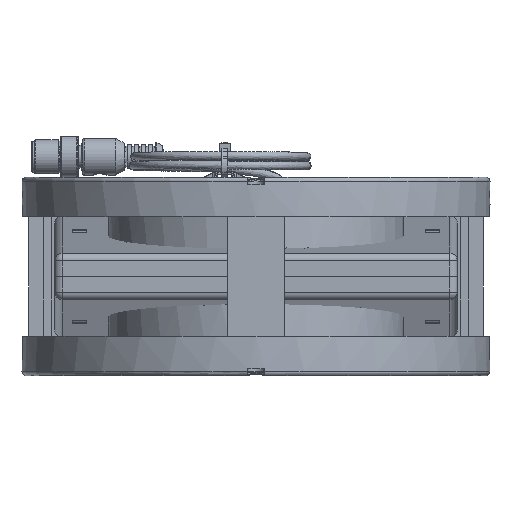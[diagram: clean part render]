
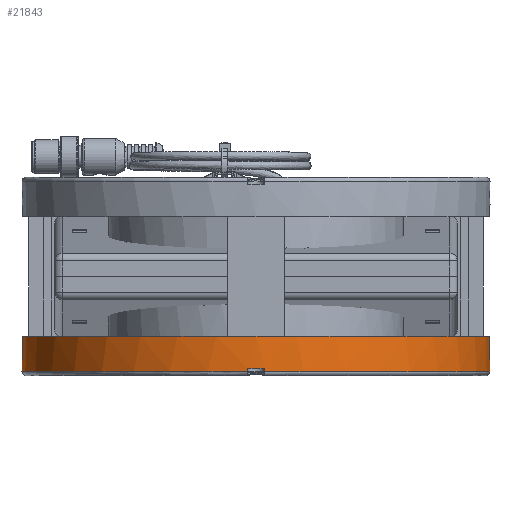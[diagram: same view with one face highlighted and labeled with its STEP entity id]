
A CAD part, front view. The second image highlights one B-rep face of the part: STEP entity #21843.
In plain terms, the highlighted cylindrical face has radius 82.4 mm (diameter 164.8 mm), a full revolution.
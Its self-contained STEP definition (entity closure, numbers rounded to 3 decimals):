
#4868=LINE('',#63931,#7932);
#4869=LINE('',#63936,#7933);
#4870=LINE('',#63940,#7934);
#4871=LINE('',#63944,#7935);
#7932=VECTOR('',#53034,1.);
#7933=VECTOR('',#53037,1.);
#7934=VECTOR('',#53040,1.);
#7935=VECTOR('',#53043,1.);
#10996=CIRCLE('',#49103,82.4);
#10997=CIRCLE('',#49104,82.4);
#10998=CIRCLE('',#49105,82.4);
#10999=CIRCLE('',#49106,82.4);
#11000=CIRCLE('',#49107,82.4);
#21843=ADVANCED_FACE('',(#24840,#24841),#24160,.T.);
#24160=CYLINDRICAL_SURFACE('',#49108,82.4);
#24840=FACE_BOUND('',#25578,.T.);
#24841=FACE_BOUND('',#25579,.T.);
#25578=EDGE_LOOP('',(#28341,#28342));
#25579=EDGE_LOOP('',(#28343,#28344,#28345,#28346,#28347,#28348,#28349,#28350));
#28341=ORIENTED_EDGE('',*,*,#43395,.F.);
#28342=ORIENTED_EDGE('',*,*,#43396,.F.);
#28343=ORIENTED_EDGE('',*,*,#43397,.F.);
#28344=ORIENTED_EDGE('',*,*,#43398,.T.);
#28345=ORIENTED_EDGE('',*,*,#43399,.F.);
#28346=ORIENTED_EDGE('',*,*,#43400,.T.);
#28347=ORIENTED_EDGE('',*,*,#43401,.F.);
#28348=ORIENTED_EDGE('',*,*,#43402,.T.);
#28349=ORIENTED_EDGE('',*,*,#43403,.F.);
#28350=ORIENTED_EDGE('',*,*,#43404,.T.);
#39697=VERTEX_POINT('',#63928);
#39698=VERTEX_POINT('',#63929);
#39699=VERTEX_POINT('',#63932);
#39700=VERTEX_POINT('',#63933);
#39701=VERTEX_POINT('',#63935);
#39702=VERTEX_POINT('',#63937);
#39703=VERTEX_POINT('',#63939);
#39704=VERTEX_POINT('',#63941);
#39705=VERTEX_POINT('',#63943);
#39706=VERTEX_POINT('',#63945);
#43395=EDGE_CURVE('',#39697,#39698,#49075,.T.);
#43396=EDGE_CURVE('',#39698,#39697,#10996,.T.);
#43397=EDGE_CURVE('',#39699,#39700,#4868,.T.);
#43398=EDGE_CURVE('',#39699,#39701,#10997,.T.);
#43399=EDGE_CURVE('',#39702,#39701,#4869,.T.);
#43400=EDGE_CURVE('',#39702,#39703,#10998,.T.);
#43401=EDGE_CURVE('',#39704,#39703,#4870,.T.);
#43402=EDGE_CURVE('',#39704,#39705,#10999,.T.);
#43403=EDGE_CURVE('',#39706,#39705,#4871,.T.);
#43404=EDGE_CURVE('',#39706,#39700,#11000,.T.);
#49075=ELLIPSE('',#49102,82.715,82.4);
#49102=AXIS2_PLACEMENT_3D('',#63927,#53030,#53031);
#49103=AXIS2_PLACEMENT_3D('',#63930,#53032,#53033);
#49104=AXIS2_PLACEMENT_3D('',#63934,#53035,#53036);
#49105=AXIS2_PLACEMENT_3D('',#63938,#53038,#53039);
#49106=AXIS2_PLACEMENT_3D('',#63942,#53041,#53042);
#49107=AXIS2_PLACEMENT_3D('',#63946,#53044,#53045);
#49108=AXIS2_PLACEMENT_3D('',#63947,#53046,#53047);
#53030=DIRECTION('',(0.996,0.087,0.));
#53031=DIRECTION('',(0.087,-0.996,0.));
#53032=DIRECTION('',(1.,0.,0.));
#53033=DIRECTION('',(0.,1.,0.));
#53034=DIRECTION('',(1.,0.,0.));
#53035=DIRECTION('',(1.,0.,0.));
#53036=DIRECTION('',(0.,1.,0.));
#53037=DIRECTION('',(-1.,0.,0.));
#53038=DIRECTION('',(1.,0.,0.));
#53039=DIRECTION('',(0.,1.,0.));
#53040=DIRECTION('',(1.,0.,0.));
#53041=DIRECTION('',(1.,0.,0.));
#53042=DIRECTION('',(0.,1.,0.));
#53043=DIRECTION('',(-1.,0.,0.));
#53044=DIRECTION('',(1.,0.,0.));
#53045=DIRECTION('',(0.,1.,0.));
#53046=DIRECTION('',(1.,0.,0.));
#53047=DIRECTION('',(0.,1.,0.));
#63927=CARTESIAN_POINT('',(20.69,0.,0.));
#63928=CARTESIAN_POINT('',(14.,76.47,-30.692));
#63929=CARTESIAN_POINT('',(14.,76.47,30.692));
#63930=CARTESIAN_POINT('',(14.,0.,0.));
#63931=CARTESIAN_POINT('',(21.4,-82.345,-3.));
#63932=CARTESIAN_POINT('',(1.5,-82.345,-3.));
#63933=CARTESIAN_POINT('',(2.5,-82.345,-3.));
#63934=CARTESIAN_POINT('',(1.5,0.,0.));
#63935=CARTESIAN_POINT('',(1.5,82.345,-3.));
#63936=CARTESIAN_POINT('',(21.4,82.345,-3.));
#63937=CARTESIAN_POINT('',(2.5,82.345,-3.));
#63938=CARTESIAN_POINT('',(2.5,0.,0.));
#63939=CARTESIAN_POINT('',(2.5,82.345,3.));
#63940=CARTESIAN_POINT('',(21.4,82.345,3.));
#63941=CARTESIAN_POINT('',(1.5,82.345,3.));
#63942=CARTESIAN_POINT('',(1.5,0.,0.));
#63943=CARTESIAN_POINT('',(1.5,-82.345,3.));
#63944=CARTESIAN_POINT('',(21.4,-82.345,3.));
#63945=CARTESIAN_POINT('',(2.5,-82.345,3.));
#63946=CARTESIAN_POINT('',(2.5,0.,0.));
#63947=CARTESIAN_POINT('',(21.4,0.,0.));
